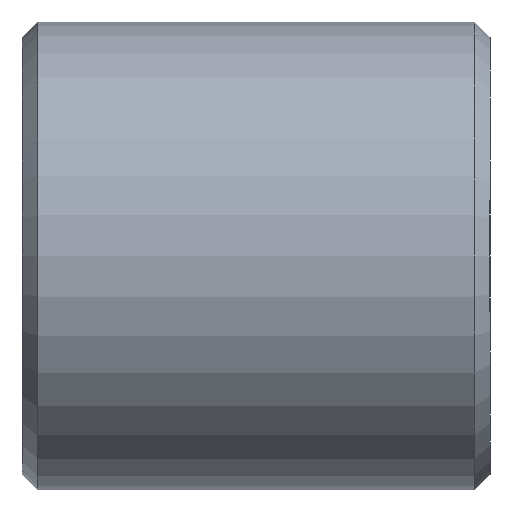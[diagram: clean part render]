
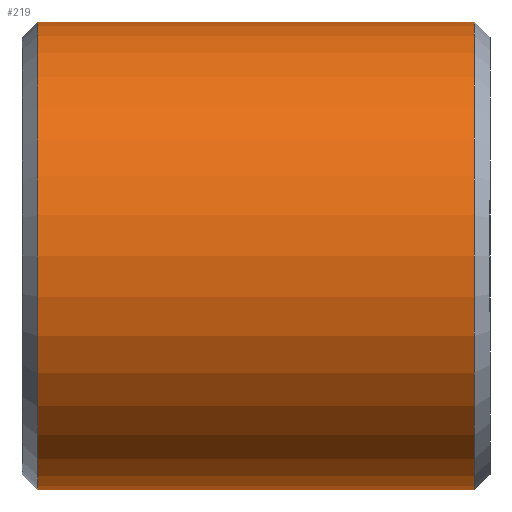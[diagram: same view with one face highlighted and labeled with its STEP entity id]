
A CAD part, left-side view. The second image highlights one B-rep face of the part: STEP entity #219.
In plain terms, the highlighted cylindrical face has radius 7.5 mm (diameter 15 mm), a partial arc.
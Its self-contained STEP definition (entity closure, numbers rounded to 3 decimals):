
#76 = EDGE_CURVE ( 'NONE', #1158, #1041, #1010, .T. ) ;
#106 = CARTESIAN_POINT ( 'NONE',  ( 0., 65.513, -7.5 ) ) ;
#134 = EDGE_LOOP ( 'NONE', ( #588, #1126, #1227, #1274 ) ) ;
#167 = AXIS2_PLACEMENT_3D ( 'NONE', #1186, #1270, #1284 ) ;
#219 = ADVANCED_FACE ( 'NONE', ( #662 ), #324, .T. ) ;
#252 = CARTESIAN_POINT ( 'NONE',  ( 0., 1., 0. ) ) ;
#265 = AXIS2_PLACEMENT_3D ( 'NONE', #252, #986, #582 ) ;
#300 = EDGE_CURVE ( 'NONE', #941, #1041, #982, .T. ) ;
#324 = CYLINDRICAL_SURFACE ( 'NONE', #167, 7.5 ) ;
#342 = LINE ( 'NONE', #1049, #929 ) ;
#377 = VECTOR ( 'NONE', #1356, 1000. ) ;
#476 = CARTESIAN_POINT ( 'NONE',  ( 0., -13., 7.5 ) ) ;
#582 = DIRECTION ( 'NONE',  ( 0., 0., 1. ) ) ;
#588 = ORIENTED_EDGE ( 'NONE', *, *, #76, .F. ) ;
#617 = DIRECTION ( 'NONE',  ( 0., 0., -1. ) ) ;
#662 = FACE_OUTER_BOUND ( 'NONE', #134, .T. ) ;
#744 = DIRECTION ( 'NONE',  ( 0., 1., 0. ) ) ;
#817 = CARTESIAN_POINT ( 'NONE',  ( 0., -13., 0. ) ) ;
#837 = EDGE_CURVE ( 'NONE', #1140, #941, #342, .T. ) ;
#929 = VECTOR ( 'NONE', #744, 1000. ) ;
#941 = VERTEX_POINT ( 'NONE', #961 ) ;
#961 = CARTESIAN_POINT ( 'NONE',  ( 0., 1., 7.5 ) ) ;
#982 = CIRCLE ( 'NONE', #265, 7.5 ) ;
#986 = DIRECTION ( 'NONE',  ( 0., -1., 0. ) ) ;
#1010 = LINE ( 'NONE', #106, #377 ) ;
#1041 = VERTEX_POINT ( 'NONE', #1080 ) ;
#1049 = CARTESIAN_POINT ( 'NONE',  ( 0., 65.513, 7.5 ) ) ;
#1080 = CARTESIAN_POINT ( 'NONE',  ( 0., 1., -7.5 ) ) ;
#1112 = DIRECTION ( 'NONE',  ( 0., 1., 0. ) ) ;
#1126 = ORIENTED_EDGE ( 'NONE', *, *, #1228, .T. ) ;
#1140 = VERTEX_POINT ( 'NONE', #476 ) ;
#1158 = VERTEX_POINT ( 'NONE', #1211 ) ;
#1176 = CIRCLE ( 'NONE', #1248, 7.5 ) ;
#1186 = CARTESIAN_POINT ( 'NONE',  ( 0., 65.513, 0. ) ) ;
#1211 = CARTESIAN_POINT ( 'NONE',  ( 0., -13., -7.5 ) ) ;
#1227 = ORIENTED_EDGE ( 'NONE', *, *, #837, .T. ) ;
#1228 = EDGE_CURVE ( 'NONE', #1158, #1140, #1176, .T. ) ;
#1248 = AXIS2_PLACEMENT_3D ( 'NONE', #817, #1112, #617 ) ;
#1270 = DIRECTION ( 'NONE',  ( 0., 1., 0. ) ) ;
#1274 = ORIENTED_EDGE ( 'NONE', *, *, #300, .T. ) ;
#1284 = DIRECTION ( 'NONE',  ( 0., 0., 1. ) ) ;
#1356 = DIRECTION ( 'NONE',  ( 0., 1., 0. ) ) ;
